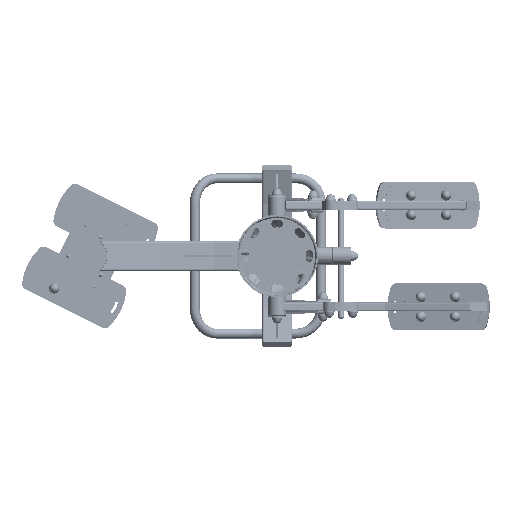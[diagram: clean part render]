
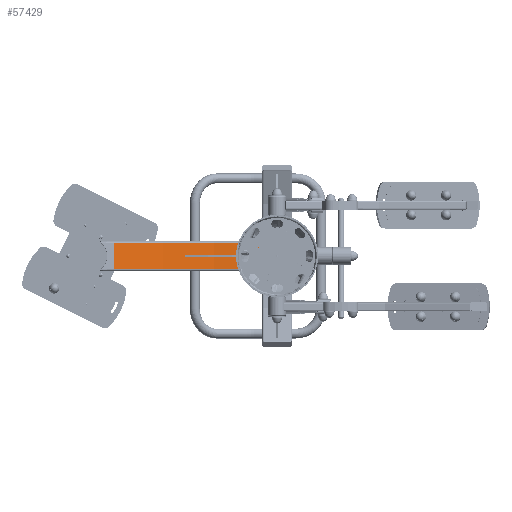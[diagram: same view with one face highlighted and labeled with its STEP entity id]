
A CAD part, front view. The second image highlights one B-rep face of the part: STEP entity #57429.
In plain terms, the highlighted cylindrical face has radius 1175 mm (diameter 2350 mm), a partial arc.
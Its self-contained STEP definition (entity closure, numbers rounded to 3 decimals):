
#5530 = VERTEX_POINT ( 'NONE', #193822 ) ;
#12309 = VERTEX_POINT ( 'NONE', #109193 ) ;
#18621 = AXIS2_PLACEMENT_3D ( 'NONE', #172625, #190498, #160944 ) ;
#22153 = VECTOR ( 'NONE', #97765, 1000. ) ;
#22908 = LINE ( 'NONE', #152875, #137115 ) ;
#24245 = EDGE_CURVE ( 'NONE', #196483, #146625, #51258, .T. ) ;
#30848 = AXIS2_PLACEMENT_3D ( 'NONE', #86026, #88083, #167399 ) ;
#51258 = LINE ( 'NONE', #192798, #22153 ) ;
#54380 = CARTESIAN_POINT ( 'NONE',  ( 0., 0., -45. ) ) ;
#57429 = ADVANCED_FACE ( 'NONE', ( #198963 ), #186263, .F. ) ;
#74639 = DIRECTION ( 'NONE',  ( 0., 0., 1. ) ) ;
#86026 = CARTESIAN_POINT ( 'NONE',  ( 0., 0., -216.752 ) ) ;
#88083 = DIRECTION ( 'NONE',  ( 0., 0., -1. ) ) ;
#97765 = DIRECTION ( 'NONE',  ( 0., 0., 1. ) ) ;
#105599 = CARTESIAN_POINT ( 'NONE',  ( -35.484, 1174.464, -45. ) ) ;
#108654 = CIRCLE ( 'NONE', #162710, 1175. ) ;
#109193 = CARTESIAN_POINT ( 'NONE',  ( -558.69, 1033.678, -45. ) ) ;
#109702 = CIRCLE ( 'NONE', #18621, 1175. ) ;
#130768 = ORIENTED_EDGE ( 'NONE', *, *, #202906, .F. ) ;
#137115 = VECTOR ( 'NONE', #74639, 1000. ) ;
#137785 = DIRECTION ( 'NONE',  ( 0., 0., -1. ) ) ;
#146625 = VERTEX_POINT ( 'NONE', #150344 ) ;
#150344 = CARTESIAN_POINT ( 'NONE',  ( -35.484, 1174.464, 45. ) ) ;
#152875 = CARTESIAN_POINT ( 'NONE',  ( -558.69, 1033.678, -50. ) ) ;
#160944 = DIRECTION ( 'NONE',  ( -1., 0., 0. ) ) ;
#162710 = AXIS2_PLACEMENT_3D ( 'NONE', #54380, #137785, #183253 ) ;
#166010 = EDGE_LOOP ( 'NONE', ( #185575, #187408, #130768, #174759 ) ) ;
#167399 = DIRECTION ( 'NONE',  ( -1., 0., 0. ) ) ;
#172625 = CARTESIAN_POINT ( 'NONE',  ( 0., 0., 45. ) ) ;
#174759 = ORIENTED_EDGE ( 'NONE', *, *, #190347, .F. ) ;
#178766 = EDGE_CURVE ( 'NONE', #12309, #196483, #108654, .T. ) ;
#183253 = DIRECTION ( 'NONE',  ( -1., 0., 0. ) ) ;
#185575 = ORIENTED_EDGE ( 'NONE', *, *, #178766, .T. ) ;
#186263 = CYLINDRICAL_SURFACE ( 'NONE', #30848, 1175. ) ;
#187408 = ORIENTED_EDGE ( 'NONE', *, *, #24245, .T. ) ;
#190347 = EDGE_CURVE ( 'NONE', #12309, #5530, #22908, .T. ) ;
#190498 = DIRECTION ( 'NONE',  ( 0., 0., -1. ) ) ;
#192798 = CARTESIAN_POINT ( 'NONE',  ( -35.484, 1174.464, -50. ) ) ;
#193822 = CARTESIAN_POINT ( 'NONE',  ( -558.69, 1033.678, 45. ) ) ;
#196483 = VERTEX_POINT ( 'NONE', #105599 ) ;
#198963 = FACE_OUTER_BOUND ( 'NONE', #166010, .T. ) ;
#202906 = EDGE_CURVE ( 'NONE', #5530, #146625, #109702, .T. ) ;
